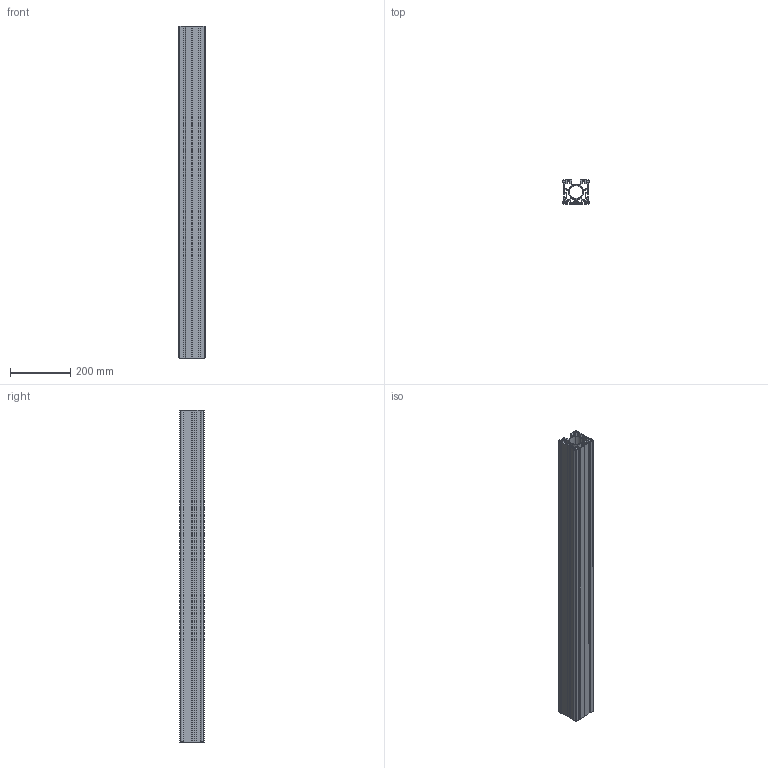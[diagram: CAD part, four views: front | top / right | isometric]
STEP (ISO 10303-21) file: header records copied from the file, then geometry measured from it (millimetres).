
FILE_DESCRIPTION (( 'STEP AP203' ), '1' );
FILE_NAME ('_-_MLF 4 1098 mm lang.step', '2005-09-01T12:46:06', ( ' ' ), ( ' ' ), 'SwSTEP 2.0', 'SolidWorks 2005187', '' );
FILE_SCHEMA (( 'CONFIG_CONTROL_DESIGN' ));
Length unit declared in the file: millimetre
Products named in the file (1): _-_MLF 4  1098 mm lang
Bounding box: 87.6 x 80 x 1098 mm (x, y, z)
Volume: 2529575.5 mm3; surface area: 1359024.1 mm2
Topology: 1 solids, 1 shells, 248 faces, 762 edges, 500 vertices
Faces by surface type: plane 174, cylinder 74
Entity records: 8575 total; most frequent: ORIENTED_EDGE 1524, CARTESIAN_POINT 1511, DIRECTION 1408, EDGE_CURVE 762, VECTOR 614, LINE 614, VERTEX_POINT 500, AXIS2_PLACEMENT_3D 397
